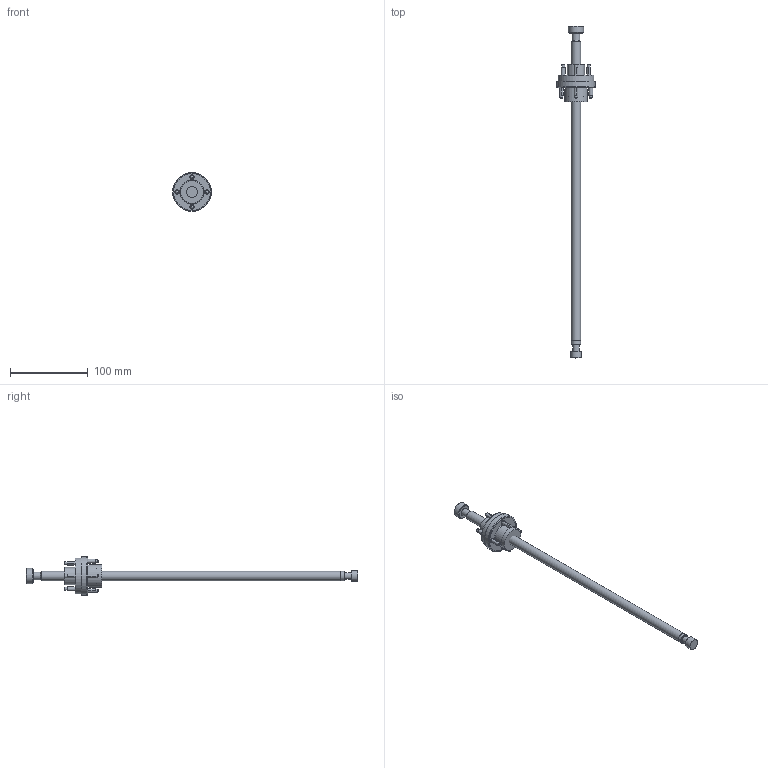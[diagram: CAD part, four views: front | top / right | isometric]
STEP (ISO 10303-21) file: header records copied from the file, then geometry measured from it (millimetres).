
FILE_DESCRIPTION (( 'STEP AP214' ), '1' );
FILE_NAME ('AS-12X400 SEMPLIFICATO.STEP', '2026-07-08T11:48:47', ( '' ), ( '' ), 'SwSTEP 2.0', 'SolidWorks 2025', '' );
FILE_SCHEMA (( 'AUTOMOTIVE_DESIGN' ));
Length unit declared in the file: millimetre
Products named in the file (9): AS12-CORPO SEMPLIFICATO; AS12-TESTA STELO SEMPLIFICATO; AS12 STELO SEDE; AS-12X400 SEMPLIFICATO; AS12-STELO200 SEMPLIFICATO; AS12 CORPO SEDE; AS12-FLANGIA SEMPLIFICATO; A12 FLANGIA SEDE; iso 4762 m6 x 25 - 25n_ISO 4762 M6 x 25 - 25N
Assembly tree (8 placements, depth 2):
  AS-12X400 SEMPLIFICATO
    AS12-CORPO SEMPLIFICATO
    AS12-FLANGIA SEMPLIFICATO
    AS12-STELO200 SEMPLIFICATO
    AS12-TESTA STELO SEMPLIFICATO
    iso 4762 m6 x 25 - 25n_ISO 4762 M6 x 25 - 25N
    AS12 CORPO SEDE
    A12 FLANGIA SEDE
    AS12 STELO SEDE
Bounding box: 50 x 426 x 50 mm (x, y, z)
Volume: 129345.2 mm3; surface area: 48520.6 mm2
Topology: 27 solids, 27 shells, 227 faces, 455 edges, 291 vertices
Faces by surface type: plane 109, cylinder 69, cone 44, torus 5
Full cylindrical faces by diameter (mm): 4.2 x8, 5 x1, 5.4 x8, 6 x1, 6.5 x1, 8.5 x1, 8.6 x4, 8.9 x4, 9.7 x1, 9.75 x1, 10 x1, 10.5 x1, 12 x1, 12.1 x2, 14 x1, 19.5 x1, 19.8 x1, 20.15 x1, 22 x1, 22.1 x1, 29 x1, 29.5 x1, 46 x2, 50 x2
Entity records: 5757 total; most frequent: DIRECTION 998, CARTESIAN_POINT 828, ORIENTED_EDGE 658, AXIS2_PLACEMENT_3D 431, EDGE_LOOP 360, EDGE_CURVE 329, FACE_OUTER_BOUND 279, VERTEX_POINT 261
